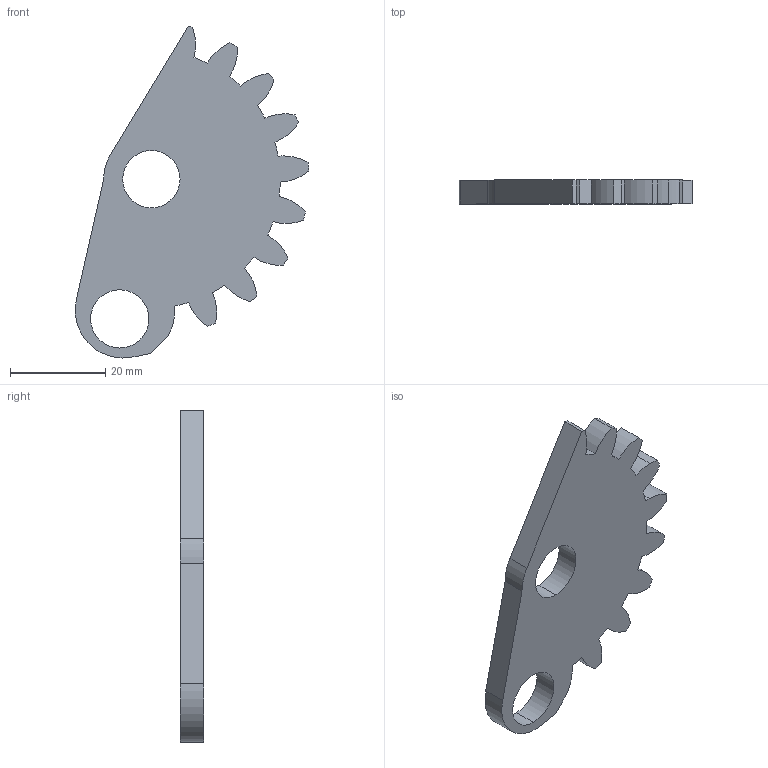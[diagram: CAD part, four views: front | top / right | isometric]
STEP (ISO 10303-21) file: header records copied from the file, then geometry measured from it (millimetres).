
FILE_DESCRIPTION (( 'STEP AP203' ), '1' );
FILE_NAME ('喘謫3.STEP', '2025-05-01T07:28:54', ( '' ), ( '' ), 'SwSTEP 2.0', 'SolidWorks 2024', '' );
FILE_SCHEMA (( 'CONFIG_CONTROL_DESIGN' ));
Length unit declared in the file: millimetre
Products named in the file (1): 齿轮3
Bounding box: 48.9 x 5 x 69.54 mm (x, y, z)
Volume: 8821.8 mm3; surface area: 5166.3 mm2
Topology: 1 solids, 1 shells, 50 faces, 144 edges, 96 vertices
Faces by surface type: cylinder 45, plane 5
Entity records: 1783 total; most frequent: DIRECTION 336, CARTESIAN_POINT 291, ORIENTED_EDGE 288, EDGE_CURVE 144, AXIS2_PLACEMENT_3D 141, VERTEX_POINT 96, CIRCLE 90, EDGE_LOOP 54
